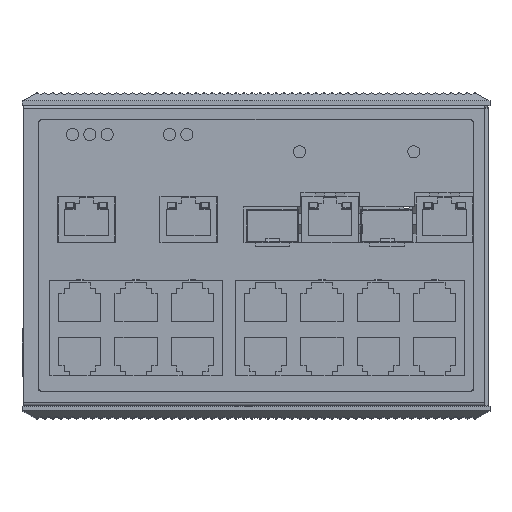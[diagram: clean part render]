
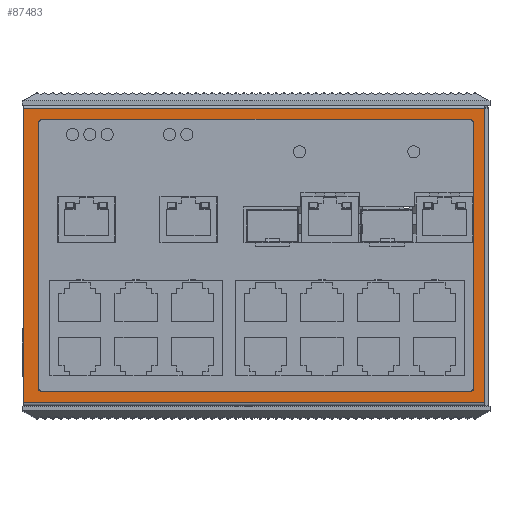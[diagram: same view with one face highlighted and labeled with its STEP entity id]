
A CAD part, top view. The second image highlights one B-rep face of the part: STEP entity #87483.
In plain terms, the highlighted planar face has unit normal (0, 0, 1).
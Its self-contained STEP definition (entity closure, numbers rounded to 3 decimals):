
#8705=DIRECTION('',(0.,-1.,0.));
#8706=VECTOR('',#8705,84.8);
#8707=CARTESIAN_POINT('',(66.7,84.85,70.86));
#8708=LINE('',#8707,#8706);
#8790=DIRECTION('',(-1.,0.,0.));
#8791=VECTOR('',#8790,133.);
#8792=CARTESIAN_POINT('',(66.7,0.05,70.86));
#8793=LINE('',#8792,#8791);
#10283=DIRECTION('',(0.,1.,0.));
#10284=VECTOR('',#10283,84.8);
#10285=CARTESIAN_POINT('',(-66.3,0.05,70.86));
#10286=LINE('',#10285,#10284);
#31405=DIRECTION('',(1.,0.,0.));
#31406=VECTOR('',#31405,133.);
#31407=CARTESIAN_POINT('',(-66.3,84.85,70.86));
#31408=LINE('',#31407,#31406);
#31409=CARTESIAN_POINT('',(62.5,4.15,70.86));
#31410=DIRECTION('',(0.,0.,-1.));
#31411=DIRECTION('',(1.,0.,0.));
#31412=AXIS2_PLACEMENT_3D('',#31409,#31410,#31411);
#31414=DIRECTION('',(0.,-1.,0.));
#31415=VECTOR('',#31414,76.6);
#31416=CARTESIAN_POINT('',(63.5,80.75,70.86));
#31417=LINE('',#31416,#31415);
#31418=CARTESIAN_POINT('',(62.5,80.75,70.86));
#31419=DIRECTION('',(0.,0.,-1.));
#31420=DIRECTION('',(0.,1.,0.));
#31421=AXIS2_PLACEMENT_3D('',#31418,#31419,#31420);
#31423=DIRECTION('',(1.,0.,0.));
#31424=VECTOR('',#31423,123.6);
#31425=CARTESIAN_POINT('',(-61.1,81.75,70.86));
#31426=LINE('',#31425,#31424);
#31427=CARTESIAN_POINT('',(-61.1,80.75,70.86));
#31428=DIRECTION('',(0.,0.,-1.));
#31429=DIRECTION('',(-1.,0.,0.));
#31430=AXIS2_PLACEMENT_3D('',#31427,#31428,#31429);
#31432=DIRECTION('',(0.,1.,0.));
#31433=VECTOR('',#31432,76.6);
#31434=CARTESIAN_POINT('',(-62.1,4.15,70.86));
#31435=LINE('',#31434,#31433);
#31436=CARTESIAN_POINT('',(-61.1,4.15,70.86));
#31437=DIRECTION('',(0.,0.,-1.));
#31438=DIRECTION('',(0.,-1.,0.));
#31439=AXIS2_PLACEMENT_3D('',#31436,#31437,#31438);
#31441=DIRECTION('',(-1.,0.,0.));
#31442=VECTOR('',#31441,123.6);
#31443=CARTESIAN_POINT('',(62.5,3.15,70.86));
#31444=LINE('',#31443,#31442);
#35600=CARTESIAN_POINT('',(-66.3,84.85,70.86));
#35601=VERTEX_POINT('',#35600);
#35602=CARTESIAN_POINT('',(66.7,84.85,70.86));
#35603=VERTEX_POINT('',#35602);
#35674=CARTESIAN_POINT('',(-66.3,0.05,70.86));
#35675=VERTEX_POINT('',#35674);
#35676=CARTESIAN_POINT('',(66.7,0.05,70.86));
#35677=VERTEX_POINT('',#35676);
#35736=CARTESIAN_POINT('',(63.5,4.15,70.86));
#35737=CARTESIAN_POINT('',(62.5,3.15,70.86));
#35738=VERTEX_POINT('',#35736);
#35739=VERTEX_POINT('',#35737);
#35768=CARTESIAN_POINT('',(-61.1,3.15,70.86));
#35769=VERTEX_POINT('',#35768);
#35770=CARTESIAN_POINT('',(63.5,80.75,70.86));
#35771=VERTEX_POINT('',#35770);
#35796=CARTESIAN_POINT('',(-62.1,4.15,70.86));
#35797=VERTEX_POINT('',#35796);
#35798=CARTESIAN_POINT('',(62.5,81.75,70.86));
#35799=VERTEX_POINT('',#35798);
#35846=CARTESIAN_POINT('',(-62.1,80.75,70.86));
#35847=VERTEX_POINT('',#35846);
#35850=CARTESIAN_POINT('',(-61.1,81.75,70.86));
#35851=VERTEX_POINT('',#35850);
#87454=CARTESIAN_POINT('',(66.7,84.85,70.86));
#87455=DIRECTION('',(0.,0.,-1.));
#87456=DIRECTION('',(1.,0.,0.));
#87457=AXIS2_PLACEMENT_3D('',#87454,#87455,#87456);
#87458=PLANE('',#87457);
#87459=ORIENTED_EDGE('',*,*,#87448,.T.);
#87460=ORIENTED_EDGE('',*,*,#55753,.T.);
#87461=ORIENTED_EDGE('',*,*,#55862,.T.);
#87462=ORIENTED_EDGE('',*,*,#55876,.T.);
#87463=EDGE_LOOP('',(#87459,#87460,#87461,#87462));
#87464=FACE_OUTER_BOUND('',#87463,.F.);
#87466=ORIENTED_EDGE('',*,*,#87465,.F.);
#87468=ORIENTED_EDGE('',*,*,#87467,.F.);
#87470=ORIENTED_EDGE('',*,*,#87469,.F.);
#87472=ORIENTED_EDGE('',*,*,#87471,.F.);
#87474=ORIENTED_EDGE('',*,*,#87473,.F.);
#87476=ORIENTED_EDGE('',*,*,#87475,.F.);
#87478=ORIENTED_EDGE('',*,*,#87477,.F.);
#87480=ORIENTED_EDGE('',*,*,#87479,.F.);
#87481=EDGE_LOOP('',(#87466,#87468,#87470,#87472,#87474,#87476,#87478,#87480));
#87482=FACE_BOUND('',#87481,.F.);
#87483=ADVANCED_FACE('',(#87464,#87482),#87458,.F.);
#31413=CIRCLE('',#31412,1.);
#31422=CIRCLE('',#31421,1.);
#31431=CIRCLE('',#31430,1.);
#31440=CIRCLE('',#31439,1.);
#55753=EDGE_CURVE('',#35603,#35677,#8708,.T.);
#55862=EDGE_CURVE('',#35677,#35675,#8793,.T.);
#55876=EDGE_CURVE('',#35675,#35601,#10286,.T.);
#87448=EDGE_CURVE('',#35601,#35603,#31408,.T.);
#87465=EDGE_CURVE('',#35738,#35739,#31413,.T.);
#87467=EDGE_CURVE('',#35771,#35738,#31417,.T.);
#87469=EDGE_CURVE('',#35799,#35771,#31422,.T.);
#87471=EDGE_CURVE('',#35851,#35799,#31426,.T.);
#87473=EDGE_CURVE('',#35847,#35851,#31431,.T.);
#87475=EDGE_CURVE('',#35797,#35847,#31435,.T.);
#87477=EDGE_CURVE('',#35769,#35797,#31440,.T.);
#87479=EDGE_CURVE('',#35739,#35769,#31444,.T.);
